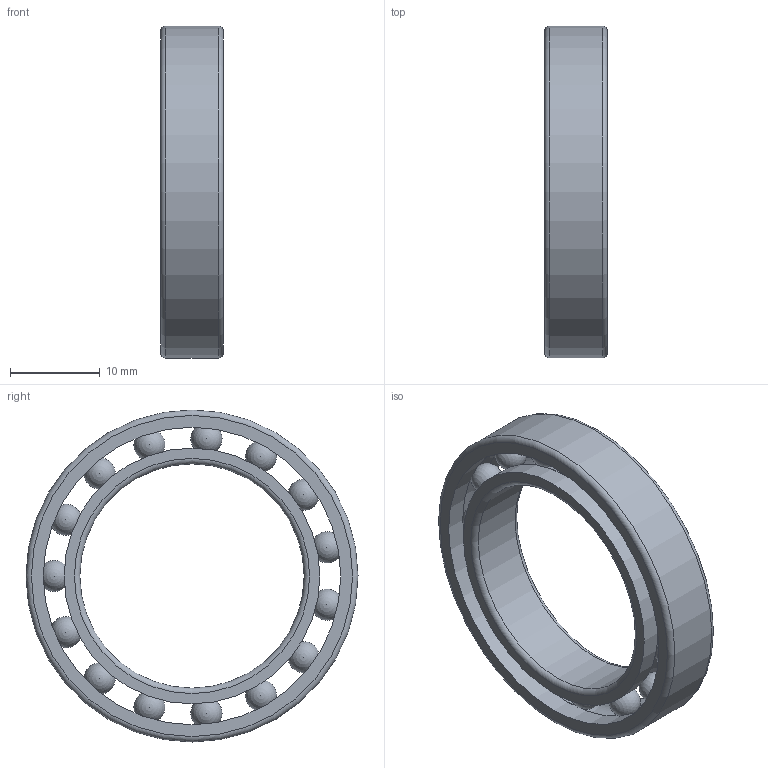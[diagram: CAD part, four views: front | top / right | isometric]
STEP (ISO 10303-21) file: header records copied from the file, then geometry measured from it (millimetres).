
FILE_DESCRIPTION( ( 'STEP AP214' ), ' ' );
FILE_NAME( 'p:/temp/worker_250/3164_5056/app_40_02017101500132795162595192d056f_000000_00_00_000000/format_0/61805.stp', '2017-10-14T22:13:28', ( '' ), ( '' ), ' ', 'PARTsolutions', ' ' );
FILE_SCHEMA( ( 'AUTOMOTIVE_DESIGN { 1 0 10303 214 1 1 1 1 }' ) );
Length unit declared in the file: millimetre
Products named in the file (4): 61805; _61805_PART1; _61805_PART2; _61805_PART3
Assembly tree (17 placements, depth 2):
  61805
    _61805_PART1
    _61805_PART2
    _61805_PART3  x15
Bounding box: 7 x 37 x 37 mm (x, y, z)
Volume: 2616.4 mm3; surface area: 3978.4 mm2
Topology: 17 solids, 17 shells, 31 faces, 73 edges, 46 vertices
Faces by surface type: sphere 15, torus 6, cylinder 6, plane 4
Full cylindrical faces by diameter (mm): 25 x1, 28.5 x2, 33.15 x2, 37 x1
Entity records: 672 total; most frequent: DIRECTION 102, CARTESIAN_POINT 70, AXIS2_PLACEMENT_3D 51, EDGE_LOOP 32, ORIENTED_EDGE 32, FACE_OUTER_BOUND 28, PRODUCT_DEFINITION_SHAPE 21, VERTEX_POINT 19
